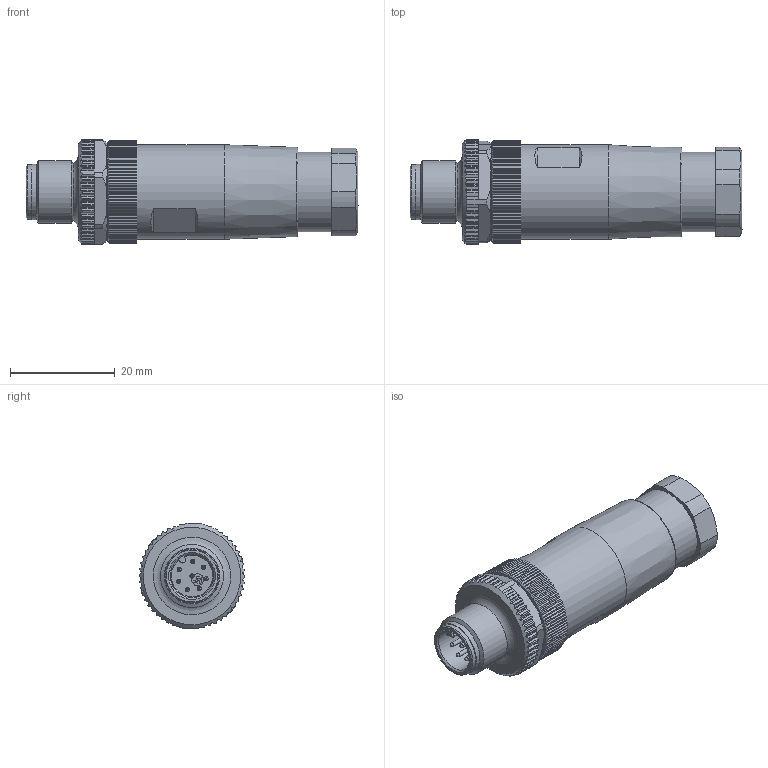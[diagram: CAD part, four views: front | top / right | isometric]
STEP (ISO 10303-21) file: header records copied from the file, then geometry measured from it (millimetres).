
FILE_DESCRIPTION(/* description */ (''),/* implementation_level */ '2;1');
FILE_NAME(/* name */ '99-0487-12-08_bg.stp',/* time_stamp */ '2008-09-12T11:32:24+02:00',/* author */ (''),/* organization */ (''),/* preprocessor_version */ 'ST-DEVELOPER v11',/* originating_system */ 'UGS - NX 5.0',/* authorisation */ '');
FILE_SCHEMA (('CONFIG_CONTROL_DESIGN'));
Length unit declared in the file: millimetre
Products named in the file (1): kborB6BD2nqv
Bounding box: 63.3 x 20.2 x 20.2 mm (x, y, z)
Volume: 13675.6 mm3; surface area: 5246.5 mm2
Topology: 1 solids, 2 shells, 632 faces, 1808 edges, 1199 vertices
Faces by surface type: plane 376, cylinder 229, cone 17, bspline 8, torus 2
Full cylindrical faces by diameter (mm): 0.8 x8, 8.3 x1, 9.4 x1, 9.6 x1, 10.3 x1, 10.6 x1, 12 x1, 13.9 x1, 15.2 x1, 18 x1
Entity records: 22154 total; most frequent: CARTESIAN_POINT 6305, ORIENTED_EDGE 3502, DIRECTION 2984, EDGE_CURVE 1751, VERTEX_POINT 1180, AXIS2_PLACEMENT_3D 1027, LINE 930, VECTOR 930
